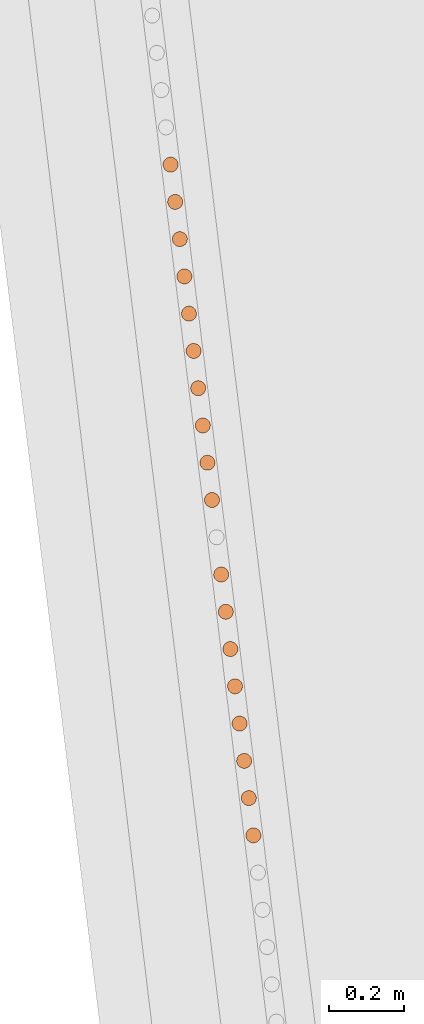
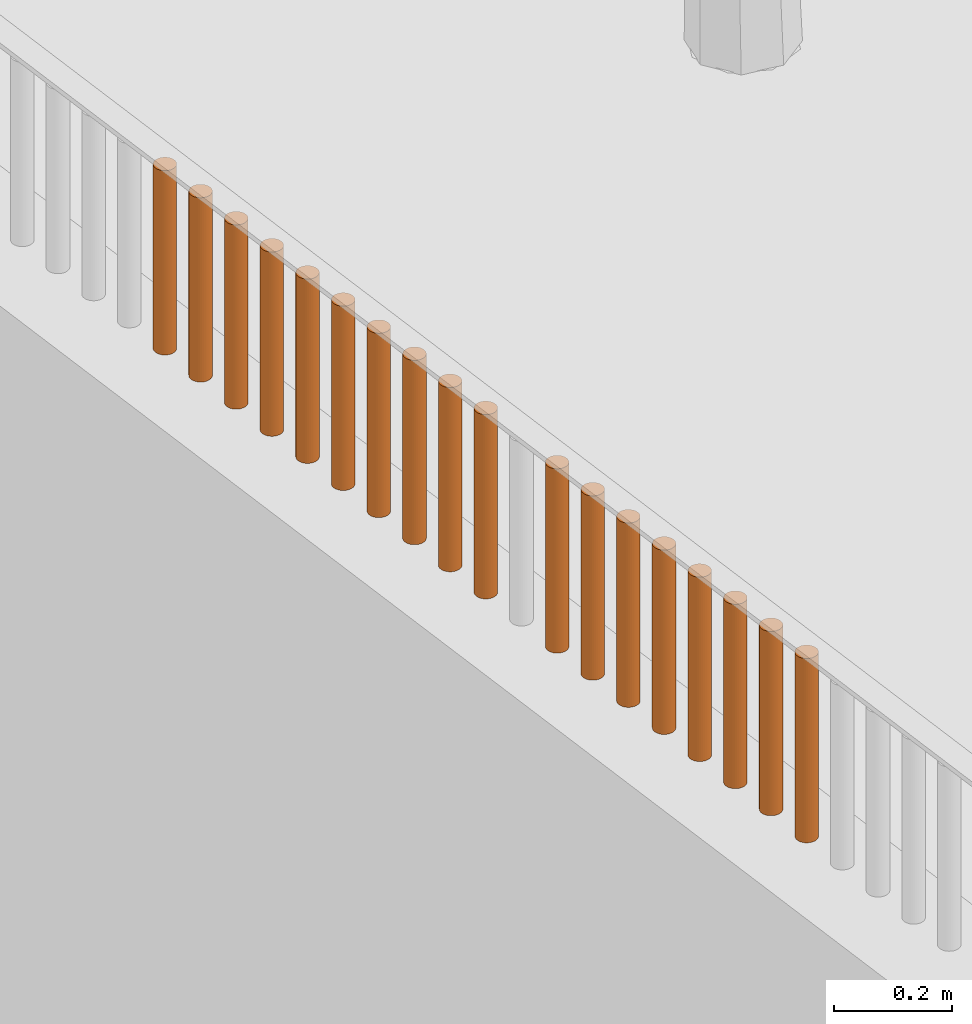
# One storey, part 219 of 1809: 18 proxies, 1 element without a shape of its own.
"""IFC2X3 building model written with IfcOpenShell, lengths in millimetres."""

from ifc_helpers import new_model, entity, si_unit, converted_unit, derived_unit, money_unit, direction, frame, origin_with_axes, place, context, subcontext, project, spatial, faceted_brep, source, transform, mapped, material, type_object, element, aggregate, save


model = new_model("IFC2X3")

# Units and contexts
model_context = context("Model", 3, precision=0.01, world=origin_with_axes(), true_north=direction((0.0, 1.0)))
body_context = subcontext(model_context, "Body", "Model", "MODEL_VIEW")
ifc_project = project(units=[si_unit("LENGTHUNIT", "METRE", prefix="MILLI"), si_unit("AREAUNIT", "SQUARE_METRE"), si_unit("VOLUMEUNIT", "CUBIC_METRE"), converted_unit("PLANEANGLEUNIT", "DEGREE", entity("IfcPlaneAngleMeasure", 0.0174532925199), si_unit("PLANEANGLEUNIT", "RADIAN"), dimensions=[0, 0, 0, 0, 0, 0, 0]), si_unit("SOLIDANGLEUNIT", "STERADIAN"), money_unit("EUR"), converted_unit("TIMEUNIT", "Year", entity("IfcTimeMeasure", 31556926.0), si_unit("TIMEUNIT", "SECOND"), dimensions=[0, 0, 1, 0, 0, 0, 0]), si_unit("MASSUNIT", "GRAM", prefix="KILO"), si_unit("THERMODYNAMICTEMPERATUREUNIT", "DEGREE_CELSIUS"), si_unit("LUMINOUSINTENSITYUNIT", "LUMEN"), si_unit("ENERGYUNIT", "JOULE", prefix="MEGA"), derived_unit("THERMALCONDUCTANCEUNIT", [(si_unit("POWERUNIT", "WATT"), 1), (si_unit("LENGTHUNIT", "METRE"), -1), (si_unit("THERMODYNAMICTEMPERATUREUNIT", "KELVIN"), -1)]), derived_unit("SPECIFICHEATCAPACITYUNIT", [(si_unit("ENERGYUNIT", "JOULE"), 1), (si_unit("MASSUNIT", "GRAM", prefix="KILO"), -1), (si_unit("THERMODYNAMICTEMPERATUREUNIT", "KELVIN"), -1)]), derived_unit("MASSDENSITYUNIT", [(si_unit("MASSUNIT", "GRAM", prefix="KILO"), 1), (si_unit("VOLUMEUNIT", "CUBIC_METRE"), -1)])], contexts=[model_context])

# Site, building, storey
site_placement = place(None, origin_with_axes())
site = spatial("IfcSite", under=ifc_project, at=site_placement, Name="Politse- ja Piirivalveameti ning Päästeameti ühishoone", CompositionType="ELEMENT")
building_placement = place(site_placement, origin_with_axes())
building = spatial("IfcBuilding", under=site, at=building_placement, Name="Politse- ja Piirivalveameti ning Päästeameti ühishoone", CompositionType="ELEMENT")
storey_placement = place(building_placement, origin_with_axes())
storey = spatial("IfcBuildingStorey", under=building, at=storey_placement, Name="Esimene korrus", CompositionType="ELEMENT", Elevation=0.0)

# Proxies
building_element_proxy_type_1 = type_object("IfcBuildingElementProxyType", Name="Railing Type", PredefinedType="NOTDEFINED")
proxy_1_placement = place(storey_placement, frame((-18956.5522504, -53688.4757966, 2100.0), z_axis=(0.0, 0.0, 1.0), x_axis=(1.0, 0.0, 0.0)))
proxy_1 = element("IfcBuildingElementProxy", 1, at=proxy_1_placement, inside=storey, type_object=building_element_proxy_type_1, Name="PIIRDEAED")
ifc_material = material(Name="ET-06_Teras - Konstruktsioon")
building_element_proxy_type_2 = type_object("IfcBuildingElementProxyType", Name="IfcBuildingElementProxy", PredefinedType="NOTDEFINED")
shared_shape_1 = source(origin_with_axes(), body_context, "Body", "Brep", [
    faceted_brep([(0.0, -20.0, 0.0), (3.47296355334, -19.6961550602, 0.0), (3.47296355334, -19.6961550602, 380.000012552), (0.0, -20.0, 380.000012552), (-3.47296355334, -19.6961550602, 0.0), (-6.84040286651, -18.7938524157, 0.0), (-10.0, -17.3205080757, 0.0), (-12.8557521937, -15.3208888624, 0.0), (-15.3208888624, -12.8557521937, 0.0), (-17.3205080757, -10.0, 0.0), (-18.7938524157, -6.84040286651, 0.0), (-19.6961550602, -3.47296355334, 0.0), (-20.0, 0.0, 0.0), (-19.6961550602, 3.47296355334, 0.0), (-18.7938524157, 6.84040286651, 0.0), (-17.3205080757, 10.0, 0.0), (-15.3208888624, 12.8557521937, 0.0), (-12.8557521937, 15.3208888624, 0.0), (-10.0, 17.3205080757, 0.0), (-6.84040286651, 18.7938524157, 0.0), (-3.47296355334, 19.6961550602, 0.0), (0.0, 20.0, 0.0), (3.47296355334, 19.6961550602, 0.0), (6.84040286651, 18.7938524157, 0.0), (10.0, 17.3205080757, 0.0), (12.8557521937, 15.3208888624, 0.0), (15.3208888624, 12.8557521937, 0.0), (17.3205080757, 10.0, 0.0), (18.7938524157, 6.84040286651, 0.0), (19.6961550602, 3.47296355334, 0.0), (20.0, 0.0, 0.0), (19.6961550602, -3.47296355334, 0.0), (18.7938524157, -6.84040286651, 0.0), (17.3205080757, -10.0, 0.0), (15.3208888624, -12.8557521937, 0.0), (12.8557521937, -15.3208888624, 0.0), (10.0, -17.3205080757, 0.0), (6.84040286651, -18.7938524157, 0.0), (6.84040286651, -18.7938524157, 380.000012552), (10.0, -17.3205080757, 380.000012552), (12.8557521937, -15.3208888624, 380.000012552), (15.3208888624, -12.8557521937, 380.000012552), (17.3205080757, -10.0, 380.000012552), (18.7938524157, -6.84040286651, 380.000012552), (19.6961550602, -3.47296355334, 380.000012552), (20.0, 0.0, 380.000012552), (19.6961550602, 3.47296355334, 380.000012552), (18.7938524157, 6.84040286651, 380.000012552), (17.3205080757, 10.0, 380.000012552), (15.3208888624, 12.8557521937, 380.000012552), (12.8557521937, 15.3208888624, 380.000012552), (10.0, 17.3205080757, 380.000012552), (6.84040286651, 18.7938524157, 380.000012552), (3.47296355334, 19.6961550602, 380.000012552), (0.0, 20.0, 380.000012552), (-3.47296355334, 19.6961550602, 380.000012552), (-6.84040286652, 18.7938524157, 380.000012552), (-10.0, 17.3205080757, 380.000012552), (-12.8557521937, 15.3208888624, 380.000012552), (-15.3208888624, 12.8557521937, 380.000012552), (-17.3205080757, 10.0, 380.000012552), (-18.7938524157, 6.84040286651, 380.000012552), (-19.6961550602, 3.47296355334, 380.000012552), (-20.0, 0.0, 380.000012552), (-19.6961550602, -3.47296355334, 380.000012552), (-18.7938524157, -6.84040286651, 380.000012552), (-17.3205080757, -10.0, 380.000012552), (-15.3208888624, -12.8557521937, 380.000012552), (-12.8557521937, -15.3208888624, 380.000012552), (-10.0, -17.3205080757, 380.000012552), (-6.84040286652, -18.7938524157, 380.000012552), (-3.47296355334, -19.6961550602, 380.000012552)], [[[0, 1, 2, 3]], [[0, 4, 5, 6, 7, 8, 9, 10, 11, 12, 13, 14, 15, 16, 17, 18, 19, 20, 21, 22, 23, 24, 25, 26, 27, 28, 29, 30, 31, 32, 33, 34, 35, 36, 37, 1]], [[1, 37, 38, 2]], [[3, 2, 38, 39, 40, 41, 42, 43, 44, 45, 46, 47, 48, 49, 50, 51, 52, 53, 54, 55, 56, 57, 58, 59, 60, 61, 62, 63, 64, 65, 66, 67, 68, 69, 70, 71]], [[4, 0, 3, 71]], [[5, 4, 71, 70]], [[6, 5, 70, 69]], [[7, 6, 69, 68]], [[8, 7, 68, 67]], [[9, 8, 67, 66]], [[10, 9, 66, 65]], [[11, 10, 65, 64]], [[12, 11, 64, 63]], [[13, 12, 63, 62]], [[14, 13, 62, 61]], [[15, 14, 61, 60]], [[16, 15, 60, 59]], [[17, 16, 59, 58]], [[18, 17, 58, 57]], [[19, 18, 57, 56]], [[20, 19, 56, 55]], [[21, 20, 55, 54]], [[22, 21, 54, 53]], [[23, 22, 53, 52]], [[24, 23, 52, 51]], [[25, 24, 51, 50]], [[26, 25, 50, 49]], [[27, 26, 49, 48]], [[28, 27, 48, 47]], [[29, 28, 47, 46]], [[30, 29, 46, 45]], [[31, 30, 45, 44]], [[32, 31, 44, 43]], [[33, 32, 43, 42]], [[34, 33, 42, 41]], [[35, 34, 41, 40]], [[36, 35, 40, 39]], [[37, 36, 39, 38]]]),
])
proxy_2_placement = place(proxy_1_placement, frame((-4073.52693949, 32167.7583584, -1.25517001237e-05), z_axis=(0.0, 0.0, 1.0), x_axis=(1.0, 0.0, 0.0)))
proxy_2 = element("IfcBuildingElementProxy", 2, at=proxy_2_placement, type_object=building_element_proxy_type_2, material=ifc_material, Name="BALUSTER - 001", context=body_context, shape_type="MappedRepresentation", body=[
    mapped(shared_shape_1, transform((0.0, 0.0, 0.0), x_axis=(0.992468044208, 0.122503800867, 0.0), y_axis=(-0.122503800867, 0.992468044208, 0.0), z_axis=(0.0, 0.0, 1.0))),
])
proxy_3_placement = place(proxy_1_placement, frame((-4208.25169353, 33259.2348041, -1.25517001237e-05), z_axis=(0.0, 0.0, 1.0), x_axis=(1.0, 0.0, 0.0)))
proxy_3 = element("IfcBuildingElementProxy", 3, at=proxy_3_placement, type_object=building_element_proxy_type_2, material=ifc_material, Name="BALUSTER - 001", context=body_context, shape_type="MappedRepresentation", body=[
    mapped(shared_shape_1, transform((0.0, 0.0, 0.0), x_axis=(0.992468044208, 0.122503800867, 0.0), y_axis=(-0.122503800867, 0.992468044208, 0.0), z_axis=(0.0, 0.0, 1.0))),
])
shared_shape_2 = source(origin_with_axes(), body_context, "Body", "Brep", [
    faceted_brep([(0.0, -20.0, 0.0), (3.47296355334, -19.6961550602, 0.0), (3.47296355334, -19.6961550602, 380.000012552), (0.0, -20.0, 380.000012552), (-3.47296355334, -19.6961550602, 0.0), (-6.84040286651, -18.7938524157, 0.0), (-10.0, -17.3205080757, 0.0), (-12.8557521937, -15.3208888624, 0.0), (-15.3208888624, -12.8557521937, 0.0), (-17.3205080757, -10.0, 0.0), (-18.7938524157, -6.84040286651, 0.0), (-19.6961550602, -3.47296355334, 0.0), (-20.0, 0.0, 0.0), (-19.6961550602, 3.47296355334, 0.0), (-18.7938524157, 6.84040286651, 0.0), (-17.3205080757, 10.0, 0.0), (-15.3208888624, 12.8557521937, 0.0), (-12.8557521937, 15.3208888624, 0.0), (-10.0, 17.3205080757, 0.0), (-6.84040286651, 18.7938524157, 0.0), (-3.47296355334, 19.6961550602, 0.0), (0.0, 20.0, 0.0), (3.47296355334, 19.6961550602, 0.0), (6.84040286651, 18.7938524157, 0.0), (10.0, 17.3205080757, 0.0), (12.8557521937, 15.3208888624, 0.0), (15.3208888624, 12.8557521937, 0.0), (17.3205080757, 10.0, 0.0), (18.7938524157, 6.84040286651, 0.0), (19.6961550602, 3.47296355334, 0.0), (20.0, 0.0, 0.0), (19.6961550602, -3.47296355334, 0.0), (18.7938524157, -6.84040286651, 0.0), (17.3205080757, -10.0, 0.0), (15.3208888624, -12.8557521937, 0.0), (12.8557521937, -15.3208888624, 0.0), (10.0, -17.3205080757, 0.0), (6.84040286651, -18.7938524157, 0.0), (6.84040286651, -18.7938524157, 380.000012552), (10.0, -17.3205080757, 380.000012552), (12.8557521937, -15.3208888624, 380.000012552), (15.3208888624, -12.8557521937, 380.000012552), (17.3205080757, -10.0, 380.000012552), (18.7938524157, -6.84040286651, 380.000012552), (19.6961550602, -3.47296355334, 380.000012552), (20.0, 0.0, 380.000012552), (19.6961550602, 3.47296355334, 380.000012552), (18.7938524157, 6.84040286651, 380.000012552), (17.3205080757, 10.0, 380.000012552), (15.3208888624, 12.8557521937, 380.000012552), (12.8557521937, 15.3208888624, 380.000012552), (10.0, 17.3205080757, 380.000012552), (6.84040286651, 18.7938524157, 380.000012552), (3.47296355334, 19.6961550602, 380.000012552), (0.0, 20.0, 380.000012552), (-3.47296355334, 19.6961550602, 380.000012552), (-6.84040286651, 18.7938524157, 380.000012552), (-10.0, 17.3205080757, 380.000012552), (-12.8557521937, 15.3208888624, 380.000012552), (-15.3208888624, 12.8557521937, 380.000012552), (-17.3205080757, 10.0, 380.000012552), (-18.7938524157, 6.84040286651, 380.000012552), (-19.6961550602, 3.47296355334, 380.000012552), (-20.0, 0.0, 380.000012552), (-19.6961550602, -3.47296355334, 380.000012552), (-18.7938524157, -6.84040286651, 380.000012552), (-17.3205080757, -10.0, 380.000012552), (-15.3208888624, -12.8557521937, 380.000012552), (-12.8557521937, -15.3208888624, 380.000012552), (-10.0, -17.3205080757, 380.000012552), (-6.84040286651, -18.7938524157, 380.000012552), (-3.47296355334, -19.6961550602, 380.000012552)], [[[0, 1, 2, 3]], [[0, 4, 5, 6, 7, 8, 9, 10, 11, 12, 13, 14, 15, 16, 17, 18, 19, 20, 21, 22, 23, 24, 25, 26, 27, 28, 29, 30, 31, 32, 33, 34, 35, 36, 37, 1]], [[1, 37, 38, 2]], [[3, 2, 38, 39, 40, 41, 42, 43, 44, 45, 46, 47, 48, 49, 50, 51, 52, 53, 54, 55, 56, 57, 58, 59, 60, 61, 62, 63, 64, 65, 66, 67, 68, 69, 70, 71]], [[4, 0, 3, 71]], [[5, 4, 71, 70]], [[6, 5, 70, 69]], [[7, 6, 69, 68]], [[8, 7, 68, 67]], [[9, 8, 67, 66]], [[10, 9, 66, 65]], [[11, 10, 65, 64]], [[12, 11, 64, 63]], [[13, 12, 63, 62]], [[14, 13, 62, 61]], [[15, 14, 61, 60]], [[16, 15, 60, 59]], [[17, 16, 59, 58]], [[18, 17, 58, 57]], [[19, 18, 57, 56]], [[20, 19, 56, 55]], [[21, 20, 55, 54]], [[22, 21, 54, 53]], [[23, 22, 53, 52]], [[24, 23, 52, 51]], [[25, 24, 51, 50]], [[26, 25, 50, 49]], [[27, 26, 49, 48]], [[28, 27, 48, 47]], [[29, 28, 47, 46]], [[30, 29, 46, 45]], [[31, 30, 45, 44]], [[32, 31, 44, 43]], [[33, 32, 43, 42]], [[34, 33, 42, 41]], [[35, 34, 41, 40]], [[36, 35, 40, 39]], [[37, 36, 39, 38]]]),
])
proxy_4_placement = place(proxy_1_placement, frame((-4061.27923458, 32068.533227, -1.25517001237e-05), z_axis=(0.0, 0.0, 1.0), x_axis=(1.0, 0.0, 0.0)))
proxy_4 = element("IfcBuildingElementProxy", 4, at=proxy_4_placement, type_object=building_element_proxy_type_2, material=ifc_material, Name="BALUSTER - 001", context=body_context, shape_type="MappedRepresentation", body=[
    mapped(shared_shape_2, transform((0.0, 0.0, 0.0), x_axis=(0.992468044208, 0.122503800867, 0.0), y_axis=(-0.122503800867, 0.992468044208, 0.0), z_axis=(0.0, 0.0, 1.0))),
])
proxy_5_placement = place(proxy_1_placement, frame((-4085.7746444, 32266.9834898, -1.25517001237e-05), z_axis=(0.0, 0.0, 1.0), x_axis=(1.0, 0.0, 0.0)))
proxy_5 = element("IfcBuildingElementProxy", 5, at=proxy_5_placement, type_object=building_element_proxy_type_2, material=ifc_material, Name="BALUSTER - 001", context=body_context, shape_type="MappedRepresentation", body=[
    mapped(shared_shape_2, transform((0.0, 0.0, 0.0), x_axis=(0.992468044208, 0.122503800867, 0.0), y_axis=(-0.122503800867, 0.992468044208, 0.0), z_axis=(0.0, 0.0, 1.0))),
])
proxy_6_placement = place(proxy_1_placement, frame((-4196.00398862, 33160.0096726, -1.25517001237e-05), z_axis=(0.0, 0.0, 1.0), x_axis=(1.0, 0.0, 0.0)))
proxy_6 = element("IfcBuildingElementProxy", 6, at=proxy_6_placement, type_object=building_element_proxy_type_2, material=ifc_material, Name="BALUSTER - 001", context=body_context, shape_type="MappedRepresentation", body=[
    mapped(shared_shape_2, transform((0.0, 0.0, 0.0), x_axis=(0.992468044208, 0.122503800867, 0.0), y_axis=(-0.122503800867, 0.992468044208, 0.0), z_axis=(0.0, 0.0, 1.0))),
])
proxy_7_placement = place(proxy_1_placement, frame((-4220.49939845, 33358.4599355, -1.25517001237e-05), z_axis=(0.0, 0.0, 1.0), x_axis=(1.0, 0.0, 0.0)))
proxy_7 = element("IfcBuildingElementProxy", 7, at=proxy_7_placement, type_object=building_element_proxy_type_2, material=ifc_material, Name="BALUSTER - 001", context=body_context, shape_type="MappedRepresentation", body=[
    mapped(shared_shape_2, transform((0.0, 0.0, 0.0), x_axis=(0.992468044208, 0.122503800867, 0.0), y_axis=(-0.122503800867, 0.992468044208, 0.0), z_axis=(0.0, 0.0, 1.0))),
])
proxy_8_placement = place(proxy_1_placement, frame((-4244.99480827, 33556.9101983, -1.25517001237e-05), z_axis=(0.0, 0.0, 1.0), x_axis=(1.0, 0.0, 0.0)))
proxy_8 = element("IfcBuildingElementProxy", 8, at=proxy_8_placement, type_object=building_element_proxy_type_2, material=ifc_material, Name="BALUSTER - 001", context=body_context, shape_type="MappedRepresentation", body=[
    mapped(shared_shape_2, transform((0.0, 0.0, 0.0), x_axis=(0.992468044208, 0.122503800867, 0.0), y_axis=(-0.122503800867, 0.992468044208, 0.0), z_axis=(0.0, 0.0, 1.0))),
])
shared_shape_3 = source(origin_with_axes(), body_context, "Body", "Brep", [
    faceted_brep([(0.0, -20.0, 0.0), (3.47296355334, -19.6961550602, 0.0), (3.47296355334, -19.6961550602, 380.000012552), (0.0, -20.0, 380.000012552), (-3.47296355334, -19.6961550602, 0.0), (-6.84040286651, -18.7938524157, 0.0), (-10.0, -17.3205080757, 0.0), (-12.8557521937, -15.3208888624, 0.0), (-15.3208888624, -12.8557521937, 0.0), (-17.3205080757, -10.0, 0.0), (-18.7938524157, -6.84040286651, 0.0), (-19.6961550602, -3.47296355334, 0.0), (-20.0, 0.0, 0.0), (-19.6961550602, 3.47296355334, 0.0), (-18.7938524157, 6.84040286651, 0.0), (-17.3205080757, 10.0, 0.0), (-15.3208888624, 12.8557521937, 0.0), (-12.8557521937, 15.3208888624, 0.0), (-10.0, 17.3205080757, 0.0), (-6.84040286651, 18.7938524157, 0.0), (-3.47296355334, 19.6961550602, 0.0), (0.0, 20.0, 0.0), (3.47296355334, 19.6961550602, 0.0), (6.84040286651, 18.7938524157, 0.0), (10.0, 17.3205080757, 0.0), (12.8557521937, 15.3208888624, 0.0), (15.3208888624, 12.8557521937, 0.0), (17.3205080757, 10.0, 0.0), (18.7938524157, 6.84040286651, 0.0), (19.6961550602, 3.47296355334, 0.0), (20.0, 0.0, 0.0), (19.6961550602, -3.47296355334, 0.0), (18.7938524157, -6.84040286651, 0.0), (17.3205080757, -10.0, 0.0), (15.3208888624, -12.8557521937, 0.0), (12.8557521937, -15.3208888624, 0.0), (10.0, -17.3205080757, 0.0), (6.84040286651, -18.7938524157, 0.0), (6.84040286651, -18.7938524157, 380.000012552), (10.0, -17.3205080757, 380.000012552), (12.8557521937, -15.3208888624, 380.000012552), (15.3208888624, -12.8557521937, 380.000012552), (17.3205080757, -10.0, 380.000012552), (18.7938524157, -6.84040286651, 380.000012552), (19.6961550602, -3.47296355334, 380.000012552), (20.0, 0.0, 380.000012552), (19.6961550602, 3.47296355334, 380.000012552), (18.7938524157, 6.84040286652, 380.000012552), (17.3205080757, 10.0, 380.000012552), (15.3208888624, 12.8557521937, 380.000012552), (12.8557521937, 15.3208888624, 380.000012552), (10.0, 17.3205080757, 380.000012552), (6.84040286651, 18.7938524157, 380.000012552), (3.47296355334, 19.6961550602, 380.000012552), (0.0, 20.0, 380.000012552), (-3.47296355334, 19.6961550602, 380.000012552), (-6.84040286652, 18.7938524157, 380.000012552), (-10.0, 17.3205080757, 380.000012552), (-12.8557521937, 15.3208888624, 380.000012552), (-15.3208888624, 12.8557521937, 380.000012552), (-17.3205080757, 10.0, 380.000012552), (-18.7938524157, 6.84040286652, 380.000012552), (-19.6961550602, 3.47296355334, 380.000012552), (-20.0, 0.0, 380.000012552), (-19.6961550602, -3.47296355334, 380.000012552), (-18.7938524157, -6.84040286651, 380.000012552), (-17.3205080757, -10.0, 380.000012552), (-15.3208888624, -12.8557521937, 380.000012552), (-12.8557521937, -15.3208888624, 380.000012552), (-10.0, -17.3205080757, 380.000012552), (-6.84040286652, -18.7938524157, 380.000012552), (-3.47296355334, -19.6961550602, 380.000012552)], [[[0, 1, 2, 3]], [[0, 4, 5, 6, 7, 8, 9, 10, 11, 12, 13, 14, 15, 16, 17, 18, 19, 20, 21, 22, 23, 24, 25, 26, 27, 28, 29, 30, 31, 32, 33, 34, 35, 36, 37, 1]], [[1, 37, 38, 2]], [[3, 2, 38, 39, 40, 41, 42, 43, 44, 45, 46, 47, 48, 49, 50, 51, 52, 53, 54, 55, 56, 57, 58, 59, 60, 61, 62, 63, 64, 65, 66, 67, 68, 69, 70, 71]], [[4, 0, 3, 71]], [[5, 4, 71, 70]], [[6, 5, 70, 69]], [[7, 6, 69, 68]], [[8, 7, 68, 67]], [[9, 8, 67, 66]], [[10, 9, 66, 65]], [[11, 10, 65, 64]], [[12, 11, 64, 63]], [[13, 12, 63, 62]], [[14, 13, 62, 61]], [[15, 14, 61, 60]], [[16, 15, 60, 59]], [[17, 16, 59, 58]], [[18, 17, 58, 57]], [[19, 18, 57, 56]], [[20, 19, 56, 55]], [[21, 20, 55, 54]], [[22, 21, 54, 53]], [[23, 22, 53, 52]], [[24, 23, 52, 51]], [[25, 24, 51, 50]], [[26, 25, 50, 49]], [[27, 26, 49, 48]], [[28, 27, 48, 47]], [[29, 28, 47, 46]], [[30, 29, 46, 45]], [[31, 30, 45, 44]], [[32, 31, 44, 43]], [[33, 32, 43, 42]], [[34, 33, 42, 41]], [[35, 34, 41, 40]], [[36, 35, 40, 39]], [[37, 36, 39, 38]]]),
])
proxy_9_placement = place(proxy_1_placement, frame((-4159.26087388, 32862.3342784, -1.25517001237e-05), z_axis=(0.0, 0.0, 1.0), x_axis=(1.0, 0.0, 0.0)))
proxy_9 = element("IfcBuildingElementProxy", 9, at=proxy_9_placement, type_object=building_element_proxy_type_2, material=ifc_material, Name="BALUSTER - 001", context=body_context, shape_type="MappedRepresentation", body=[
    mapped(shared_shape_3, transform((0.0, 0.0, 0.0), x_axis=(0.992468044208, 0.122503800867, 0.0), y_axis=(-0.122503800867, 0.992468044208, 0.0), z_axis=(0.0, 0.0, 1.0))),
])
proxy_10_placement = place(proxy_1_placement, frame((-4183.75628371, 33060.7845412, -1.25517001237e-05), z_axis=(0.0, 0.0, 1.0), x_axis=(1.0, 0.0, 0.0)))
proxy_10 = element("IfcBuildingElementProxy", 10, at=proxy_10_placement, type_object=building_element_proxy_type_2, material=ifc_material, Name="BALUSTER - 001", context=body_context, shape_type="MappedRepresentation", body=[
    mapped(shared_shape_3, transform((0.0, 0.0, 0.0), x_axis=(0.992468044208, 0.122503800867, 0.0), y_axis=(-0.122503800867, 0.992468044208, 0.0), z_axis=(0.0, 0.0, 1.0))),
])
proxy_11_placement = place(proxy_1_placement, frame((-4232.74710336, 33457.6850669, -1.25517001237e-05), z_axis=(0.0, 0.0, 1.0), x_axis=(1.0, 0.0, 0.0)))
proxy_11 = element("IfcBuildingElementProxy", 11, at=proxy_11_placement, type_object=building_element_proxy_type_2, material=ifc_material, Name="BALUSTER - 001", context=body_context, shape_type="MappedRepresentation", body=[
    mapped(shared_shape_3, transform((0.0, 0.0, 0.0), x_axis=(0.992468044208, 0.122503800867, 0.0), y_axis=(-0.122503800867, 0.992468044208, 0.0), z_axis=(0.0, 0.0, 1.0))),
])
shared_shape_4 = source(origin_with_axes(), body_context, "Body", "Brep", [
    faceted_brep([(0.0, -20.0, 0.0), (3.47296355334, -19.6961550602, 0.0), (3.47296355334, -19.6961550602, 380.000012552), (0.0, -20.0, 380.000012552), (-3.47296355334, -19.6961550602, 0.0), (-6.84040286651, -18.7938524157, 0.0), (-10.0, -17.3205080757, 0.0), (-12.8557521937, -15.3208888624, 0.0), (-15.3208888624, -12.8557521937, 0.0), (-17.3205080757, -10.0, 0.0), (-18.7938524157, -6.84040286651, 0.0), (-19.6961550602, -3.47296355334, 0.0), (-20.0, 0.0, 0.0), (-19.6961550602, 3.47296355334, 0.0), (-18.7938524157, 6.84040286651, 0.0), (-17.3205080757, 10.0, 0.0), (-15.3208888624, 12.8557521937, 0.0), (-12.8557521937, 15.3208888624, 0.0), (-10.0, 17.3205080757, 0.0), (-6.84040286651, 18.7938524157, 0.0), (-3.47296355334, 19.6961550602, 0.0), (0.0, 20.0, 0.0), (3.47296355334, 19.6961550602, 0.0), (6.84040286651, 18.7938524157, 0.0), (10.0, 17.3205080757, 0.0), (12.8557521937, 15.3208888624, 0.0), (15.3208888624, 12.8557521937, 0.0), (17.3205080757, 10.0, 0.0), (18.7938524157, 6.84040286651, 0.0), (19.6961550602, 3.47296355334, 0.0), (20.0, 0.0, 0.0), (19.6961550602, -3.47296355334, 0.0), (18.7938524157, -6.84040286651, 0.0), (17.3205080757, -10.0, 0.0), (15.3208888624, -12.8557521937, 0.0), (12.8557521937, -15.3208888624, 0.0), (10.0, -17.3205080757, 0.0), (6.84040286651, -18.7938524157, 0.0), (6.84040286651, -18.7938524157, 380.000012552), (10.0, -17.3205080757, 380.000012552), (12.8557521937, -15.3208888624, 380.000012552), (15.3208888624, -12.8557521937, 380.000012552), (17.3205080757, -10.0, 380.000012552), (18.7938524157, -6.84040286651, 380.000012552), (19.6961550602, -3.47296355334, 380.000012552), (20.0, 0.0, 380.000012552), (19.6961550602, 3.47296355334, 380.000012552), (18.7938524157, 6.84040286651, 380.000012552), (17.3205080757, 10.0, 380.000012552), (15.3208888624, 12.8557521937, 380.000012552), (12.8557521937, 15.3208888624, 380.000012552), (10.0, 17.3205080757, 380.000012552), (6.84040286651, 18.7938524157, 380.000012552), (3.47296355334, 19.6961550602, 380.000012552), (0.0, 20.0, 380.000012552), (-3.47296355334, 19.6961550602, 380.000012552), (-6.84040286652, 18.7938524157, 380.000012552), (-10.0, 17.3205080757, 380.000012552), (-12.8557521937, 15.3208888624, 380.000012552), (-15.3208888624, 12.8557521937, 380.000012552), (-17.3205080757, 10.0, 380.000012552), (-18.7938524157, 6.84040286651, 380.000012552), (-19.6961550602, 3.47296355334, 380.000012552), (-20.0, 0.0, 380.000012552), (-19.6961550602, -3.47296355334, 380.000012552), (-18.7938524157, -6.84040286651, 380.000012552), (-17.3205080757, -10.0, 380.000012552), (-15.3208888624, -12.8557521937, 380.000012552), (-12.8557521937, -15.3208888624, 380.000012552), (-10.0, -17.3205080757, 380.000012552), (-6.84040286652, -18.7938524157, 380.000012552), (-3.47296355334, -19.6961550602, 380.000012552)], [[[0, 1, 2, 3]], [[0, 4, 5, 6, 7, 8, 9, 10, 11, 12, 13, 14, 15, 16, 17, 18, 19, 20, 21, 22, 23, 24, 25, 26, 27, 28, 29, 30, 31, 32, 33, 34, 35, 36, 37, 1]], [[1, 37, 38, 2]], [[3, 2, 38, 39, 40, 41, 42, 43, 44, 45, 46, 47, 48, 49, 50, 51, 52, 53, 54, 55, 56, 57, 58, 59, 60, 61, 62, 63, 64, 65, 66, 67, 68, 69, 70, 71]], [[4, 0, 3, 71]], [[5, 4, 71, 70]], [[6, 5, 70, 69]], [[7, 6, 69, 68]], [[8, 7, 68, 67]], [[9, 8, 67, 66]], [[10, 9, 66, 65]], [[11, 10, 65, 64]], [[12, 11, 64, 63]], [[13, 12, 63, 62]], [[14, 13, 62, 61]], [[15, 14, 61, 60]], [[16, 15, 60, 59]], [[17, 16, 59, 58]], [[18, 17, 58, 57]], [[19, 18, 57, 56]], [[20, 19, 56, 55]], [[21, 20, 55, 54]], [[22, 21, 54, 53]], [[23, 22, 53, 52]], [[24, 23, 52, 51]], [[25, 24, 51, 50]], [[26, 25, 50, 49]], [[27, 26, 49, 48]], [[28, 27, 48, 47]], [[29, 28, 47, 46]], [[30, 29, 46, 45]], [[31, 30, 45, 44]], [[32, 31, 44, 43]], [[33, 32, 43, 42]], [[34, 33, 42, 41]], [[35, 34, 41, 40]], [[36, 35, 40, 39]], [[37, 36, 39, 38]]]),
])
proxy_12_placement = place(proxy_1_placement, frame((-4122.51775914, 32564.6588841, -1.25517001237e-05), z_axis=(0.0, 0.0, 1.0), x_axis=(1.0, 0.0, 0.0)))
proxy_12 = element("IfcBuildingElementProxy", 12, at=proxy_12_placement, type_object=building_element_proxy_type_2, material=ifc_material, Name="BALUSTER - 001", context=body_context, shape_type="MappedRepresentation", body=[
    mapped(shared_shape_4, transform((0.0, 0.0, 0.0), x_axis=(0.992468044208, 0.122503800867, 0.0), y_axis=(-0.122503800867, 0.992468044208, 0.0), z_axis=(0.0, 0.0, 1.0))),
])
proxy_13_placement = place(proxy_1_placement, frame((-4134.76546406, 32663.8840155, -1.25517001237e-05), z_axis=(0.0, 0.0, 1.0), x_axis=(1.0, 0.0, 0.0)))
proxy_13 = element("IfcBuildingElementProxy", 13, at=proxy_13_placement, type_object=building_element_proxy_type_2, material=ifc_material, Name="BALUSTER - 001", context=body_context, shape_type="MappedRepresentation", body=[
    mapped(shared_shape_4, transform((0.0, 0.0, 0.0), x_axis=(0.992468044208, 0.122503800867, 0.0), y_axis=(-0.122503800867, 0.992468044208, 0.0), z_axis=(0.0, 0.0, 1.0))),
])
proxy_14_placement = place(proxy_1_placement, frame((-4171.50857879, 32961.5594098, -1.25517001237e-05), z_axis=(0.0, 0.0, 1.0), x_axis=(1.0, 0.0, 0.0)))
proxy_14 = element("IfcBuildingElementProxy", 14, at=proxy_14_placement, type_object=building_element_proxy_type_2, material=ifc_material, Name="BALUSTER - 001", context=body_context, shape_type="MappedRepresentation", body=[
    mapped(shared_shape_4, transform((0.0, 0.0, 0.0), x_axis=(0.992468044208, 0.122503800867, 0.0), y_axis=(-0.122503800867, 0.992468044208, 0.0), z_axis=(0.0, 0.0, 1.0))),
])
proxy_15_placement = place(proxy_1_placement, frame((-4257.24251319, 33656.1353298, -1.25517001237e-05), z_axis=(0.0, 0.0, 1.0), x_axis=(1.0, 0.0, 0.0)))
proxy_15 = element("IfcBuildingElementProxy", 15, at=proxy_15_placement, type_object=building_element_proxy_type_2, material=ifc_material, Name="BALUSTER - 001", context=body_context, shape_type="MappedRepresentation", body=[
    mapped(shared_shape_4, transform((0.0, 0.0, 0.0), x_axis=(0.992468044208, 0.122503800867, 0.0), y_axis=(-0.122503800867, 0.992468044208, 0.0), z_axis=(0.0, 0.0, 1.0))),
])
proxy_16_placement = place(proxy_1_placement, frame((-4269.4902181, 33755.3604612, -1.25517001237e-05), z_axis=(0.0, 0.0, 1.0), x_axis=(1.0, 0.0, 0.0)))
proxy_16 = element("IfcBuildingElementProxy", 16, at=proxy_16_placement, type_object=building_element_proxy_type_2, material=ifc_material, Name="BALUSTER - 001", context=body_context, shape_type="MappedRepresentation", body=[
    mapped(shared_shape_4, transform((0.0, 0.0, 0.0), x_axis=(0.992468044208, 0.122503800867, 0.0), y_axis=(-0.122503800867, 0.992468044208, 0.0), z_axis=(0.0, 0.0, 1.0))),
])
shared_shape_5 = source(origin_with_axes(), body_context, "Body", "Brep", [
    faceted_brep([(0.0, -20.0, 0.0), (3.47296355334, -19.6961550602, 0.0), (3.47296355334, -19.6961550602, 380.000012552), (0.0, -20.0, 380.000012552), (-3.47296355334, -19.6961550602, 0.0), (-6.84040286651, -18.7938524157, 0.0), (-10.0, -17.3205080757, 0.0), (-12.8557521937, -15.3208888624, 0.0), (-15.3208888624, -12.8557521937, 0.0), (-17.3205080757, -10.0, 0.0), (-18.7938524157, -6.84040286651, 0.0), (-19.6961550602, -3.47296355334, 0.0), (-20.0, 0.0, 0.0), (-19.6961550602, 3.47296355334, 0.0), (-18.7938524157, 6.84040286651, 0.0), (-17.3205080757, 10.0, 0.0), (-15.3208888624, 12.8557521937, 0.0), (-12.8557521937, 15.3208888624, 0.0), (-10.0, 17.3205080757, 0.0), (-6.84040286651, 18.7938524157, 0.0), (-3.47296355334, 19.6961550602, 0.0), (0.0, 20.0, 0.0), (3.47296355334, 19.6961550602, 0.0), (6.84040286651, 18.7938524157, 0.0), (10.0, 17.3205080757, 0.0), (12.8557521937, 15.3208888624, 0.0), (15.3208888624, 12.8557521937, 0.0), (17.3205080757, 10.0, 0.0), (18.7938524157, 6.84040286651, 0.0), (19.6961550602, 3.47296355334, 0.0), (20.0, 0.0, 0.0), (19.6961550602, -3.47296355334, 0.0), (18.7938524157, -6.84040286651, 0.0), (17.3205080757, -10.0, 0.0), (15.3208888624, -12.8557521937, 0.0), (12.8557521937, -15.3208888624, 0.0), (10.0, -17.3205080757, 0.0), (6.84040286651, -18.7938524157, 0.0), (6.84040286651, -18.7938524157, 380.000012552), (10.0, -17.3205080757, 380.000012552), (12.8557521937, -15.3208888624, 380.000012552), (15.3208888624, -12.8557521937, 380.000012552), (17.3205080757, -10.0, 380.000012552), (18.7938524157, -6.84040286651, 380.000012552), (19.6961550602, -3.47296355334, 380.000012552), (20.0, 0.0, 380.000012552), (19.6961550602, 3.47296355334, 380.000012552), (18.7938524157, 6.84040286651, 380.000012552), (17.3205080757, 10.0, 380.000012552), (15.3208888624, 12.8557521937, 380.000012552), (12.8557521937, 15.3208888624, 380.000012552), (10.0, 17.3205080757, 380.000012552), (6.84040286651, 18.7938524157, 380.000012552), (3.47296355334, 19.6961550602, 380.000012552), (0.0, 20.0, 380.000012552), (-3.47296355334, 19.6961550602, 380.000012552), (-6.84040286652, 18.7938524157, 380.000012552), (-10.0, 17.3205080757, 380.000012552), (-12.8557521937, 15.3208888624, 380.000012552), (-15.3208888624, 12.8557521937, 380.000012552), (-17.3205080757, 10.0, 380.000012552), (-18.7938524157, 6.84040286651, 380.000012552), (-19.6961550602, 3.47296355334, 380.000012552), (-20.0, 0.0, 380.000012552), (-19.6961550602, -3.47296355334, 380.000012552), (-18.7938524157, -6.84040286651, 380.000012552), (-17.3205080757, -10.0, 380.000012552), (-15.3208888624, -12.8557521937, 380.000012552), (-12.8557521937, -15.3208888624, 380.000012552), (-10.0, -17.3205080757, 380.000012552), (-6.84040286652, -18.7938524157, 380.000012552), (-3.47296355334, -19.6961550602, 380.000012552)], [[[0, 1, 2, 3]], [[0, 4, 5, 6, 7, 8, 9, 10, 11, 12, 13, 14, 15, 16, 17, 18, 19, 20, 21, 22, 23, 24, 25, 26, 27, 28, 29, 30, 31, 32, 33, 34, 35, 36, 37, 1]], [[1, 37, 38, 2]], [[3, 2, 38, 39, 40, 41, 42, 43, 44, 45, 46, 47, 48, 49, 50, 51, 52, 53, 54, 55, 56, 57, 58, 59, 60, 61, 62, 63, 64, 65, 66, 67, 68, 69, 70, 71]], [[4, 0, 3, 71]], [[5, 4, 71, 70]], [[6, 5, 70, 69]], [[7, 6, 69, 68]], [[8, 7, 68, 67]], [[9, 8, 67, 66]], [[10, 9, 66, 65]], [[11, 10, 65, 64]], [[12, 11, 64, 63]], [[13, 12, 63, 62]], [[14, 13, 62, 61]], [[15, 14, 61, 60]], [[16, 15, 60, 59]], [[17, 16, 59, 58]], [[18, 17, 58, 57]], [[19, 18, 57, 56]], [[20, 19, 56, 55]], [[21, 20, 55, 54]], [[22, 21, 54, 53]], [[23, 22, 53, 52]], [[24, 23, 52, 51]], [[25, 24, 51, 50]], [[26, 25, 50, 49]], [[27, 26, 49, 48]], [[28, 27, 48, 47]], [[29, 28, 47, 46]], [[30, 29, 46, 45]], [[31, 30, 45, 44]], [[32, 31, 44, 43]], [[33, 32, 43, 42]], [[34, 33, 42, 41]], [[35, 34, 41, 40]], [[36, 35, 40, 39]], [[37, 36, 39, 38]]]),
])
proxy_17_placement = place(proxy_1_placement, frame((-4049.03152966, 31969.3080955, -1.25517001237e-05), z_axis=(0.0, 0.0, 1.0), x_axis=(1.0, 0.0, 0.0)))
proxy_17 = element("IfcBuildingElementProxy", 17, at=proxy_17_placement, type_object=building_element_proxy_type_2, material=ifc_material, Name="BALUSTER - 001", context=body_context, shape_type="MappedRepresentation", body=[
    mapped(shared_shape_5, transform((0.0, 0.0, 0.0), x_axis=(0.992468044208, 0.122503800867, 0.0), y_axis=(-0.122503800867, 0.992468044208, 0.0), z_axis=(0.0, 0.0, 1.0))),
])
proxy_18_placement = place(proxy_1_placement, frame((-4098.02234932, 32366.2086212, -1.25517001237e-05), z_axis=(0.0, 0.0, 1.0), x_axis=(1.0, 0.0, 0.0)))
proxy_18 = element("IfcBuildingElementProxy", 18, at=proxy_18_placement, type_object=building_element_proxy_type_2, material=ifc_material, Name="BALUSTER - 001", context=body_context, shape_type="MappedRepresentation", body=[
    mapped(shared_shape_5, transform((0.0, 0.0, 0.0), x_axis=(0.992468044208, 0.122503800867, 0.0), y_axis=(-0.122503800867, 0.992468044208, 0.0), z_axis=(0.0, 0.0, 1.0))),
])
proxy_19_placement = place(proxy_1_placement, frame((-4110.27005423, 32465.4337527, -1.25517001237e-05), z_axis=(0.0, 0.0, 1.0), x_axis=(1.0, 0.0, 0.0)))
proxy_19 = element("IfcBuildingElementProxy", 19, at=proxy_19_placement, type_object=building_element_proxy_type_2, material=ifc_material, Name="BALUSTER - 001", context=body_context, shape_type="MappedRepresentation", body=[
    mapped(shared_shape_5, transform((0.0, 0.0, 0.0), x_axis=(0.992468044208, 0.122503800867, 0.0), y_axis=(-0.122503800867, 0.992468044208, 0.0), z_axis=(0.0, 0.0, 1.0))),
])
aggregate(proxy_1, [proxy_17, proxy_4, proxy_2, proxy_5, proxy_18, proxy_19, proxy_12, proxy_13, proxy_9, proxy_14, proxy_10, proxy_6, proxy_3, proxy_7, proxy_11, proxy_8, proxy_15, proxy_16])

save(model, "model.ifc")
